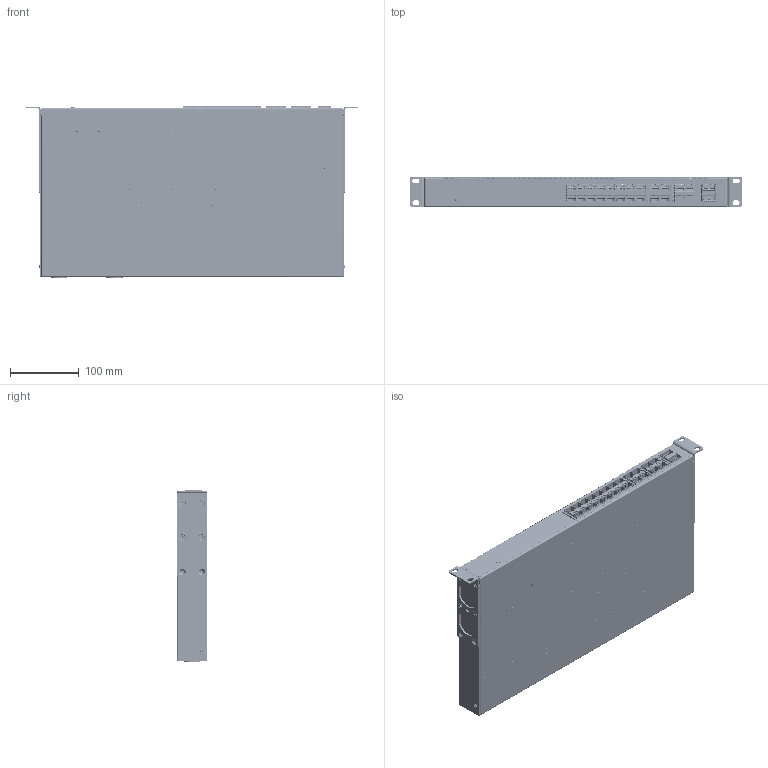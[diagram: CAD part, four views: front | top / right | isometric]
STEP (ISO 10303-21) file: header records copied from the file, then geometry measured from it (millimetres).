
FILE_DESCRIPTION (( 'STEP AP214' ), '1' );
FILE_NAME ('LU 01 00101.002.step', '2026-03-23T10:51:26', ( '' ), ( '' ), 'SwSTEP 2.0', 'SolidWorks 2025', '' );
FILE_SCHEMA (( 'AUTOMOTIVE_DESIGN' ));
Length unit declared in the file: millimetre
Products named in the file (43): C-0000207_ISO 14583 M3x6 Black; C-0000400; C-0000167; C-0000291; PEM FHL-M2.5-10 ZI--N_PEM FHL-M2.5-10 ZI--N; LU 01 00101.002; PEM TSO-M3-500 ZI--N_PEM TSO-M3-500 ZI--N; TR TER-6,3mm-14; C-0000174_voorstel 1; C-0000170; C-0000204_ISO 14581 M4x8 Black; C-0001099; C-0000217_ISO 14586 ST2.9x10 T8 110° Black; PEM CLS-M4-1 ---N_PEM CLS-M4-1 ---N; C-0001097; C-0000171; C-0000828_SEMS ISO 14583 M3x12; C-0000165_True 1; C-0000046; C-0000166; C-0000084; C-0000068; C-0000203_ISO 14581 M3x10 Black; C-0000235; C-0000361; C-0000087; C-0000168; PEM TPS-3mm-10_PEM TPS-3mm-10; C-0000210_SEMS ISO 14583 M3x6; C-0001100; C-0000162_True 1; PEM BSO-3.5M3-6_PEM BSO-3.5M3-6 ZI--N; PEM SKC-F1.5; C-0000733; C-0000120; PEM CLS-M3-1 ---N_PEM CLS-M3-1 ---N; C-0000163_True 1; C-0000074; C-0000164; C-0000119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
Assembly tree (144 placements, depth 5):
  LU 01 00101.002
    C-0000162_True 1
      C-0000163_True 1
        C-0000164
          C-0000165_True 1
          PEM CLS-M4-1 ---N_PEM CLS-M4-1 ---N  x8
          PEM CLS-M3-1 ---N_PEM CLS-M3-1 ---N  x2
          PEM FHL-M2.5-10 ZI--N_PEM FHL-M2.5-10 ZI--N  x3
          PEM TSO-M3-500 ZI--N_PEM TSO-M3-500 ZI--N  x28
          PEM BSO-3.5M3-6_PEM BSO-3.5M3-6 ZI--N  x3
          TR TER-6,3mm-14  x2
          PEM TPS-3mm-10_PEM TPS-3mm-10  x5
        C-0000166
          C-0000167
          PEM SKC-F1.5  x4
      C-0000084  x2
      C-0001097
      C-0000168
      C-0000046  x2
      C-0000204_ISO 14581 M4x8 Black  x8
      C-0000207_ISO 14583 M3x6 Black  x2
      C-0000203_ISO 14581 M3x10 Black  x4
      C-0000210_SEMS ISO 14583 M3x6  x30
      C-0000828_SEMS ISO 14583 M3x12
      C-0000733  x3
      C-0000391  x3
      C-0000217_ISO 14586 ST2.9x10 T8 110° Black  x6
      C-0000235
      C-0000170
      C-0000083
      C-0000171
      C-0000174_voorstel 1
      C-0000361
      C-0000119  x2
      C-0000120  x2
      C-0000400
      C-0000074  x3
      C-0000087
      C-0000068
      C-0001099
        C-0000291
      C-0001100
        C-0000552
Bounding box: 482 x 44.05 x 249.68 mm (x, y, z)
Volume: 839762.8 mm3; surface area: 1223131.4 mm2
Topology: 390 solids, 469 shells, 38311 faces, 106723 edges, 70369 vertices
Faces by surface type: plane 24346, cylinder 11360, bspline 1203, cone 578, torus 560, sphere 264
Full cylindrical faces by diameter (mm): 0.13 x4, 0.168 x4, 0.5 x11, 0.6 x4, 0.7 x26, 0.8 x16, 0.9 x4, 1 x3, 1.045 x38, 1.2 x2, 1.5 x26, 1.7 x2, 1.75 x20, 1.8 x2, 1.85 x8, 2 x642, 2.3 x2, 2.4 x4, 2.45 x3, 2.5 x49, 2.6 x27, 2.7 x2, 2.9 x6, 2.95 x2, 2.992 x6, 3 x93, 3.003 x28, 3.019 x3, 3.15 x3, 3.2 x29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
Entity records: 1140351 total; most frequent: CARTESIAN_POINT 288276, ORIENTED_EDGE 182223, DIRECTION 166488, EDGE_CURVE 91167, LINE 64742, VECTOR 64742, VERTEX_POINT 61173, AXIS2_PLACEMENT_3D 50873
